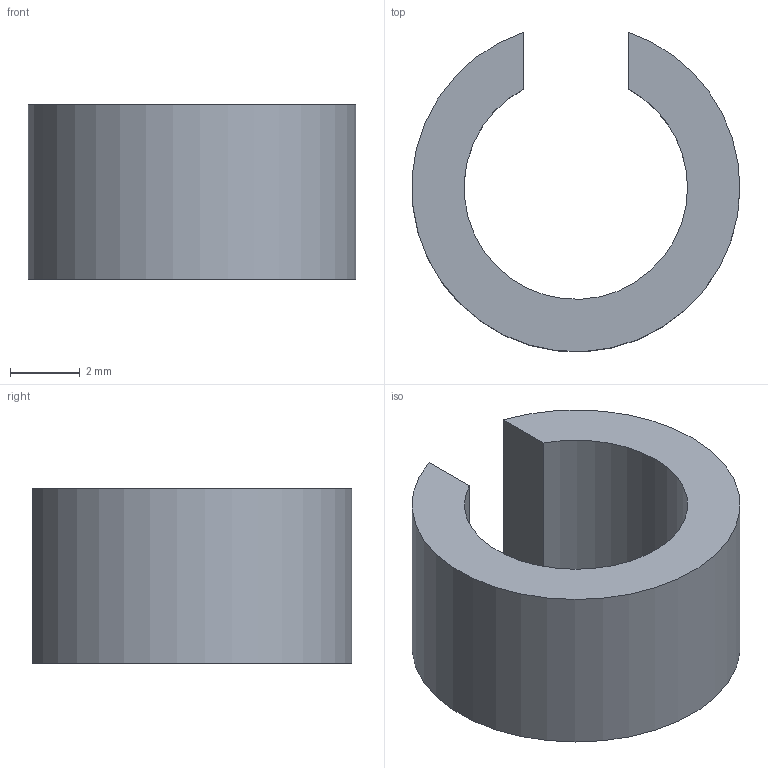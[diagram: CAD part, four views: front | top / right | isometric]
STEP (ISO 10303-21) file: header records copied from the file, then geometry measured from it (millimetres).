
FILE_DESCRIPTION(('FreeCAD Model'),'2;1');
FILE_NAME('Open CASCADE Shape Model','2026-11-20T08:25:39',('FreeCAD'),( 'FreeCAD'),'Open CASCADE STEP processor 7.8','FreeCAD','Unknown');
FILE_SCHEMA(('AUTOMOTIVE_DESIGN { 1 0 10303 214 1 1 1 1 }'));
Length unit declared in the file: millimetre
Products named in the file (1): Open CASCADE STEP translator 7.8 87
Bounding box: 9.39 x 9.15 x 5 mm (x, y, z)
Volume: 163 mm3; surface area: 298.8 mm2
Topology: 1 solids, 1 shells, 6 faces, 16 edges, 12 vertices
Faces by surface type: plane 4, cylinder 2
Entity records: 210 total; most frequent: DIRECTION 38, CARTESIAN_POINT 35, ORIENTED_EDGE 32, EDGE_CURVE 16, AXIS2_PLACEMENT_3D 15, VERTEX_POINT 12, CIRCLE 8, LINE 8
